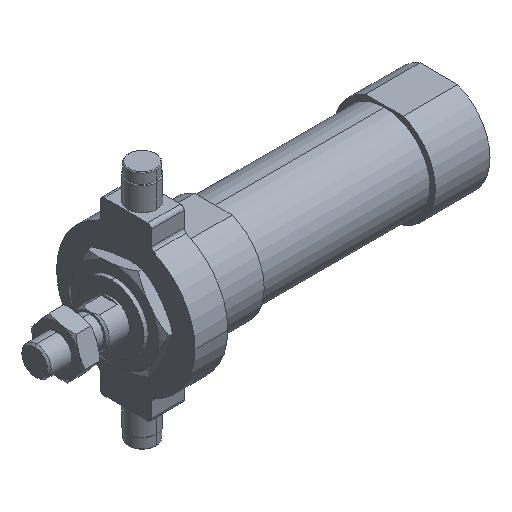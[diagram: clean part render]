
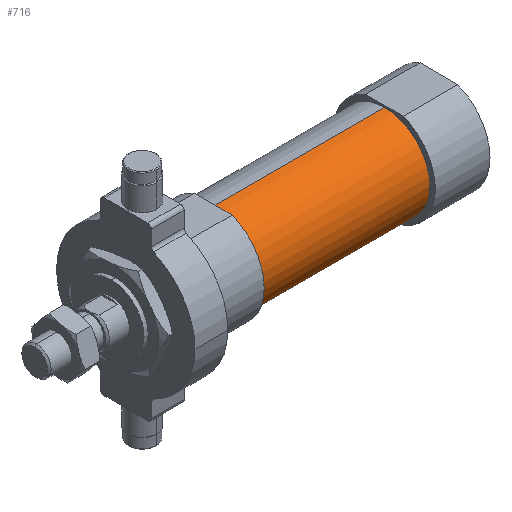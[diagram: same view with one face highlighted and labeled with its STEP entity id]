
A CAD part, isometric view. The second image highlights one B-rep face of the part: STEP entity #716.
In plain terms, the highlighted cylindrical face has radius 12.5 mm (diameter 25 mm), a partial arc.
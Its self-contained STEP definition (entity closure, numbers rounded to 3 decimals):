
#20 = CIRCLE ( 'NONE', #2962, 12.5 ) ;
#116 = CARTESIAN_POINT ( 'NONE',  ( 96., 0., 12.5 ) ) ;
#171 = AXIS2_PLACEMENT_3D ( 'NONE', #2041, #1654, #3979 ) ;
#322 = EDGE_CURVE ( 'NONE', #3944, #366, #4032, .T. ) ;
#366 = VERTEX_POINT ( 'NONE', #1984 ) ;
#593 = CARTESIAN_POINT ( 'NONE',  ( 49., 0., 0. ) ) ;
#716 = ADVANCED_FACE ( 'NONE', ( #1885 ), #3577, .T. ) ;
#756 = CARTESIAN_POINT ( 'NONE',  ( 49., 0., -12.5 ) ) ;
#1286 = DIRECTION ( 'NONE',  ( 0., 0., 1. ) ) ;
#1288 = CARTESIAN_POINT ( 'NONE',  ( -6.469, 0., -12.5 ) ) ;
#1292 = AXIS2_PLACEMENT_3D ( 'NONE', #593, #1964, #1286 ) ;
#1379 = ORIENTED_EDGE ( 'NONE', *, *, #322, .F. ) ;
#1654 = DIRECTION ( 'NONE',  ( -1., 0., 0. ) ) ;
#1885 = FACE_OUTER_BOUND ( 'NONE', #3614, .T. ) ;
#1930 = DIRECTION ( 'NONE',  ( 0., 0., 1. ) ) ;
#1951 = CARTESIAN_POINT ( 'NONE',  ( -6.469, 0., 12.5 ) ) ;
#1964 = DIRECTION ( 'NONE',  ( -1., 0., 0. ) ) ;
#1984 = CARTESIAN_POINT ( 'NONE',  ( 49., 0., 12.5 ) ) ;
#2041 = CARTESIAN_POINT ( 'NONE',  ( -6.469, 0., 0. ) ) ;
#2325 = ORIENTED_EDGE ( 'NONE', *, *, #3731, .T. ) ;
#2368 = LINE ( 'NONE', #1288, #3202 ) ;
#2729 = VERTEX_POINT ( 'NONE', #4136 ) ;
#2962 = AXIS2_PLACEMENT_3D ( 'NONE', #3890, #4277, #1930 ) ;
#2963 = EDGE_CURVE ( 'NONE', #3117, #366, #3050, .T. ) ;
#3050 = LINE ( 'NONE', #1951, #3517 ) ;
#3117 = VERTEX_POINT ( 'NONE', #116 ) ;
#3202 = VECTOR ( 'NONE', #3918, 1000. ) ;
#3249 = DIRECTION ( 'NONE',  ( -1., 0., 0. ) ) ;
#3517 = VECTOR ( 'NONE', #3249, 1000. ) ;
#3577 = CYLINDRICAL_SURFACE ( 'NONE', #171, 12.5 ) ;
#3614 = EDGE_LOOP ( 'NONE', ( #4177, #2325, #4053, #1379 ) ) ;
#3731 = EDGE_CURVE ( 'NONE', #2729, #3117, #20, .T. ) ;
#3792 = EDGE_CURVE ( 'NONE', #2729, #3944, #2368, .T. ) ;
#3890 = CARTESIAN_POINT ( 'NONE',  ( 96., 0., 0. ) ) ;
#3918 = DIRECTION ( 'NONE',  ( -1., 0., 0. ) ) ;
#3944 = VERTEX_POINT ( 'NONE', #756 ) ;
#3979 = DIRECTION ( 'NONE',  ( 0., 0., 1. ) ) ;
#4032 = CIRCLE ( 'NONE', #1292, 12.5 ) ;
#4053 = ORIENTED_EDGE ( 'NONE', *, *, #2963, .T. ) ;
#4136 = CARTESIAN_POINT ( 'NONE',  ( 96., 0., -12.5 ) ) ;
#4177 = ORIENTED_EDGE ( 'NONE', *, *, #3792, .F. ) ;
#4277 = DIRECTION ( 'NONE',  ( -1., 0., 0. ) ) ;
